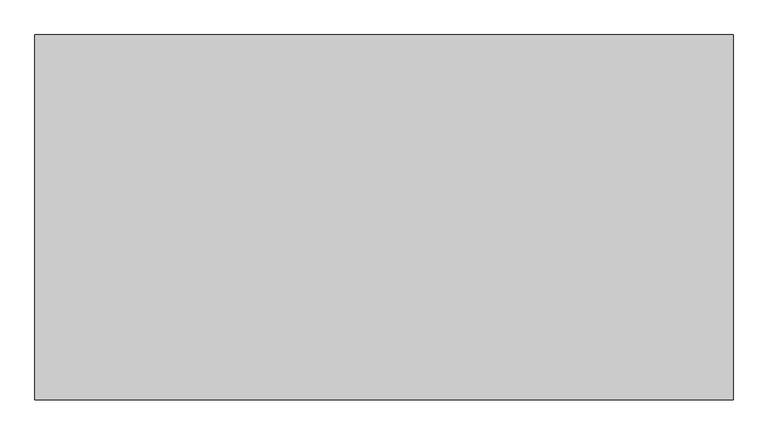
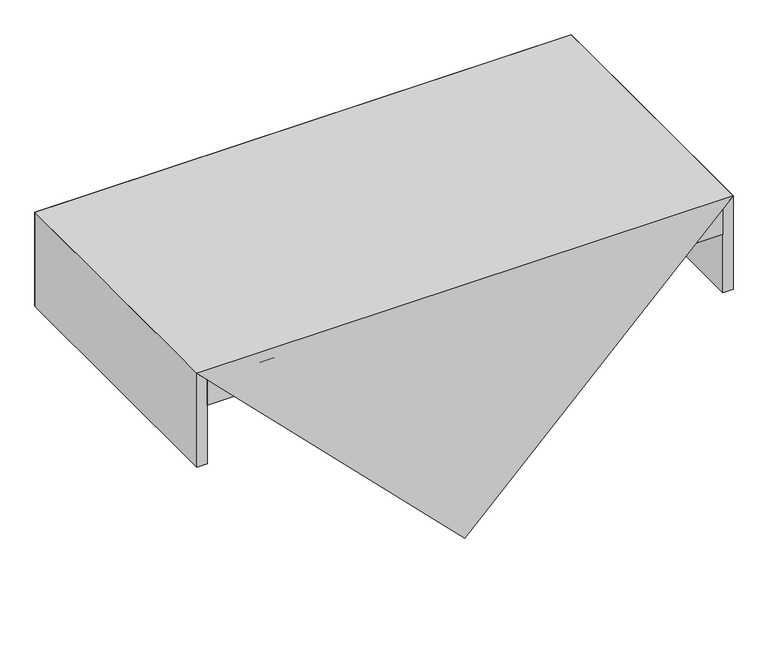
"""IFC4 building model written with IfcOpenShell, lengths in millimetres: proxy geometry, SALUTE^ADMIN 5_34x65 STRAIGHT TRANS-PARTS SOLID."""

import ifcopenshell
import ifcopenshell.guid

model = None  # the IFC model being written
_history = None  # IfcOwnerHistory: only IFC2X3 demands one
_inside = {}  # id of a spatial element -> (the spatial element, [elements in it])
_under = {}  # id of a project, library or spatial element -> (it, [spatial elements below it])
_declared = {}  # id of a project -> (the project, [libraries it declares])
_typed = {}  # id of a type object -> (the type object, [elements of that type])
_made_of = {}  # id of a material, layer set ... -> (it, [elements and type objects made of it])


def new_model(schema):
    """Start an empty IFC model of exactly this schema.

    Asked for "IFC4X3", IfcOpenShell would pick the latest addendum, in which some entities
    have other attributes; the version numbers below select the first issue.
    IFC2X3 requires an IfcOwnerHistory on every rooted entity: one is made here for all.
    """
    global model, _history
    if schema == "IFC4X3":
        model = ifcopenshell.file(schema_version=(4, 3, 0, 0))
    else:
        model = ifcopenshell.file(schema=schema)
    _inside.clear()
    _under.clear()
    _declared.clear()
    _typed.clear()
    _made_of.clear()
    _history = None
    if model.schema == "IFC2X3":
        org = make("IfcOrganization", Name="unknown")
        user = make(
            "IfcPersonAndOrganization",
            ThePerson=make("IfcPerson", FamilyName="unknown"),
            TheOrganization=org,
        )
        app = make(
            "IfcApplication",
            ApplicationDeveloper=org,
            Version="unknown",
            ApplicationFullName="unknown",
            ApplicationIdentifier="unknown",
        )
        _history = make(
            "IfcOwnerHistory",
            OwningUser=user,
            OwningApplication=app,
            ChangeAction="ADDED",
            CreationDate=0,
        )
    return model


def make(cls, **values):
    """One entity of the class cls with the attributes given. An attribute that is None is left unset."""
    return model.create_entity(
        cls, **{name: value for name, value in values.items() if value is not None}
    )


def rooted(cls, **values):
    """An entity with a GlobalId (a new one), such as an element, a storey or a relation."""
    return make(cls, GlobalId=ifcopenshell.guid.new(), OwnerHistory=_history, **values)


def si_unit(unit_type, name, prefix=None):
    """IfcSIUnit, for example si_unit("LENGTHUNIT", "METRE", prefix="MILLI")."""
    return make("IfcSIUnit", UnitType=unit_type, Prefix=prefix, Name=name)


def assignment(units):
    """IfcUnitAssignment: the units of a project."""
    return None if units is None else make("IfcUnitAssignment", Units=units)


def point(xyz):
    """IfcCartesianPoint."""
    return None if xyz is None else make("IfcCartesianPoint", Coordinates=xyz)


def direction(xyz):
    """IfcDirection."""
    return None if xyz is None else make("IfcDirection", DirectionRatios=xyz)


def frame(location, z_axis=None, x_axis=None):
    """IfcAxis2Placement3D, a coordinate frame: its origin and axes. An axis left out is left unset."""
    return make(
        "IfcAxis2Placement3D",
        Location=point(location),
        Axis=direction(z_axis),
        RefDirection=direction(x_axis),
    )


def origin():
    """The frame at (0, 0, 0) with its axes left unset."""
    return frame((0.0, 0.0, 0.0))


def place(relative_to, where):
    """IfcLocalPlacement: puts the frame where relative to a parent placement (None: the world)."""
    return make(
        "IfcLocalPlacement", PlacementRelTo=relative_to, RelativePlacement=where
    )


def context(
    kind, dimensions, precision=None, world=None, true_north=None, identifier=None
):
    """IfcGeometricRepresentationContext, for example the 3D "Model" context."""
    return make(
        "IfcGeometricRepresentationContext",
        ContextIdentifier=identifier,
        ContextType=kind,
        CoordinateSpaceDimension=dimensions,
        Precision=precision,
        WorldCoordinateSystem=world,
        TrueNorth=true_north,
    )


def project(units=None, contexts=None):
    """IfcProject with its units and contexts."""
    return rooted(
        "IfcProject",
        Name="project",
        RepresentationContexts=contexts,
        UnitsInContext=assignment(units),
    )


def spatial(cls, under=None, at=None, **own):
    """A site, building, storey or space (cls), placed at a placement, below another one or the project."""
    s = rooted(cls, ObjectPlacement=at, **own)
    if under is not None:
        _under.setdefault(under.id(), (under, []))[1].append(s)
    return s


def polyline(points):
    """IfcPolyline through the points."""
    return make("IfcPolyline", Points=[point(p) for p in points])


def outline(outer, holes=None, kind="AREA"):
    """IfcArbitraryClosedProfileDef: a profile drawn as a closed curve; with holes, ...WithVoids."""
    if holes is None:
        return make("IfcArbitraryClosedProfileDef", ProfileType=kind, OuterCurve=outer)
    return make(
        "IfcArbitraryProfileDefWithVoids",
        ProfileType=kind,
        OuterCurve=outer,
        InnerCurves=holes,
    )


def extrude(swept, where, along, depth):
    """IfcExtrudedAreaSolid: the profile swept, set in the frame where, extruded along a direction by depth."""
    return make(
        "IfcExtrudedAreaSolid",
        SweptArea=swept,
        Position=where,
        ExtrudedDirection=direction(along),
        Depth=depth,
    )


def faces_of(points, faces, orient=None, outer=None):
    """IfcFace entities. A face is a list of loops; a loop is a list of indices into points, from 0.

    orient and outer hold one flag for each loop. By default every Orientation is true, the
    first loop of a face is its IfcFaceOuterBound and the others are IfcFaceBound.
    """
    made = []
    for i, loops in enumerate(faces):
        bounds = []
        for j, loop in enumerate(loops):
            is_outer = j == 0 if outer is None else outer[i][j]
            bounds.append(
                make(
                    "IfcFaceOuterBound" if is_outer else "IfcFaceBound",
                    Bound=make("IfcPolyLoop", Polygon=[points[k] for k in loop]),
                    Orientation=True if orient is None else orient[i][j],
                )
            )
        made.append(make("IfcFace", Bounds=bounds))
    return made


def faceted_brep(points, faces, orient=None, outer=None, voids=None):
    """IfcFacetedBrep: a solid bounded by flat faces; with voids (closed shells), ...WithVoids."""
    shared = [point(p) for p in points]
    hull = make("IfcClosedShell", CfsFaces=faces_of(shared, faces, orient, outer))
    if voids is None:
        return make("IfcFacetedBrep", Outer=hull)
    return make(
        "IfcFacetedBrepWithVoids",
        Outer=hull,
        Voids=[
            make(cls, CfsFaces=faces_of(shared, fs, o, b)) for cls, fs, o, b in voids
        ],
    )


def shape(context_of_items, identifier, shape_type, items):
    """IfcShapeRepresentation: the items that make up one representation, for example the "Body"."""
    return make(
        "IfcShapeRepresentation",
        ContextOfItems=context_of_items,
        RepresentationIdentifier=identifier,
        RepresentationType=shape_type,
        Items=items,
    )


def source(mapping_origin, context_of_items, identifier, shape_type, items):
    """IfcRepresentationMap: a shape defined once, which mapped items show again and again."""
    return make(
        "IfcRepresentationMap",
        MappingOrigin=mapping_origin,
        MappedRepresentation=shape(context_of_items, identifier, shape_type, items),
    )


def transform(
    local_origin,
    x_axis=None,
    y_axis=None,
    z_axis=None,
    scale=None,
    scale2=None,
    scale3=None,
    uniform=True,
):
    """IfcCartesianTransformationOperator3D, or its non-uniform kind. x_axis, y_axis, z_axis: its Axis1, 2, 3."""
    if uniform:
        return make(
            "IfcCartesianTransformationOperator3D",
            Axis1=direction(x_axis),
            Axis2=direction(y_axis),
            LocalOrigin=point(local_origin),
            Scale=scale,
            Axis3=direction(z_axis),
        )
    return make(
        "IfcCartesianTransformationOperator3DnonUniform",
        Axis1=direction(x_axis),
        Axis2=direction(y_axis),
        LocalOrigin=point(local_origin),
        Scale=scale,
        Axis3=direction(z_axis),
        Scale2=scale2,
        Scale3=scale3,
    )


def mapped(mapping_source, mapping_target):
    """IfcMappedItem: shows the shape of a source again, moved by a transform."""
    return make(
        "IfcMappedItem", MappingSource=mapping_source, MappingTarget=mapping_target
    )


def made_of(thing, what):
    """Note that an element or type object is made of a material, layer set ...; save() writes the relation."""
    if what is not None:
        _made_of.setdefault(what.id(), (what, []))[1].append(thing)
    return thing


def element(
    cls,
    number,
    at=None,
    inside=None,
    cuts=None,
    type_object=None,
    material=None,
    context=None,
    identifier="Body",
    shape_type=None,
    held_by="IfcProductDefinitionShape",
    body=None,
    shapes=None,
    **own,
):
    """One element of the class cls, such as IfcWall. Its Tag is "e" and its number.

    at: its placement. inside: the storey or other place that contains it. cuts: it is an
    opening in that element (IfcRelVoidsElement). A single representation is given by context,
    identifier, shape_type and body (its items); several are given by shapes. held_by: the class
    of the entity that holds the representations. save() writes the other relations.
    """
    e = rooted(cls, Tag="e%d" % number, ObjectPlacement=at, **own)
    if body is not None:
        shapes = [shape(context, identifier, shape_type, body)]
    if shapes is not None:
        e.Representation = make(held_by, Representations=shapes)
    if inside is not None:
        _inside.setdefault(inside.id(), (inside, []))[1].append(e)
    if cuts is not None:
        rooted(
            "IfcRelVoidsElement", RelatingBuildingElement=cuts, RelatedOpeningElement=e
        )
    if type_object is not None:
        _typed.setdefault(type_object.id(), (type_object, []))[1].append(e)
    return made_of(e, material)


def aggregate(whole, parts):
    """IfcRelAggregates: a whole, such as a stair, and the parts it consists of."""
    return rooted("IfcRelAggregates", RelatingObject=whole, RelatedObjects=parts)


def save(model, path):
    """Write the relations noted so far, then the file.

    IfcRelAggregates (storeys below a building ...), IfcRelContainedInSpatialStructure (elements
    in a storey), IfcRelDefinesByType, IfcRelAssociatesMaterial and IfcRelDeclares: one each for
    every whole, place, type object, material and project.
    """
    for whole, parts in _under.values():
        aggregate(whole, parts)
    for where, things in _inside.values():
        rooted(
            "IfcRelContainedInSpatialStructure",
            RelatedElements=things,
            RelatingStructure=where,
        )
    for kind, things in _typed.values():
        rooted("IfcRelDefinesByType", RelatedObjects=things, RelatingType=kind)
    for what, things in _made_of.values():
        rooted("IfcRelAssociatesMaterial", RelatedObjects=things, RelatingMaterial=what)
    for by, libraries in _declared.values():
        rooted("IfcRelDeclares", RelatingContext=by, RelatedDefinitions=libraries)
    model.write(path)


def generic_models_3ec2727e(model_context):
    return source(origin(), model_context, "Body", "SolidModel", [
        extrude(outline(polyline([(-1.5875, -328.6125), (-1585.9125, -328.6125), (-1585.9125, -33.3375), (-1.5875, -33.3375), (-1.5875, -328.6125)])), frame((0.0, 0.0, -133.35), z_axis=(0.0, 0.0, 1.0), x_axis=(1.0, 0.0, 0.0)), (0.0, 0.0, 1.0), 19.05),
        faceted_brep([(-793.75, -863.6, -825.5), (31.75, -863.6, 0.0), (-1619.25, -863.6, 0.0), (-793.75, -825.5, -825.5), (31.75, 0.0, 0.0), (-1619.25, 0.0, 0.0)], [[[0, 1, 2]], [[1, 0, 3, 4]], [[5, 2, 1, 4]], [[4, 3, 5]], [[0, 2, 5, 3]]]),
        faceted_brep([(-1619.25, -863.6, -304.8), (-1587.5, -863.6, -304.8), (-1587.5, -863.6, -31.75), (-1619.25, -863.6, 0.0), (-1619.25, 0.0, 0.0), (-1587.5, -31.75, -31.75), (-1587.5, -31.75, -304.8), (-1619.25, 0.0, -304.8)], [[[0, 1, 2, 3]], [[4, 3, 2, 5]], [[5, 6, 7, 4]], [[1, 6, 5, 2]], [[7, 6, 1, 0]], [[0, 3, 4, 7]]]),
        faceted_brep([(31.75, 0.0, -304.8), (0.0, -31.75, -304.8), (-1587.5, -31.75, -304.8), (-1619.25, 0.0, -304.8), (0.0, -31.75, -31.75), (-1587.5, -31.75, -31.75), (31.75, 0.0, 0.0), (-1619.25, 0.0, 0.0)], [[[0, 1, 2, 3]], [[1, 4, 5, 2]], [[4, 6, 7, 5]], [[6, 0, 3, 7]], [[2, 5, 7, 3]], [[4, 1, 0, 6]]]),
        extrude(outline(polyline([(0.0, -844.55), (0.0, -863.6), (-1587.5, -863.6), (-1587.5, -844.55), (0.0, -844.55)])), frame((0.0, 0.0, -114.3), z_axis=(0.0, 0.0, 1.0), x_axis=(1.0, 0.0, 0.0)), (0.0, 0.0, 1.0), 82.55),
        faceted_brep([(0.0, -863.6, -304.8), (31.75, -863.6, -304.8), (31.75, -863.6, 0.0), (0.0, -863.6, -31.75), (31.75, 0.0, -304.8), (31.75, 0.0, 0.0), (0.0, -31.75, -304.8), (0.0, -31.75, -31.75)], [[[0, 1, 2, 3]], [[2, 1, 4, 5]], [[5, 4, 6, 7]], [[7, 3, 2, 5]], [[3, 7, 6, 0]], [[6, 4, 1, 0]]]),
    ])


if __name__ == "__main__":
    model = new_model("IFC4")
    model_context = context("Model", 3, world=origin())
    ifc_project = project(units=[si_unit("LENGTHUNIT", "METRE", prefix="MILLI")], contexts=[model_context])
    site = spatial("IfcSite", under=ifc_project)
    building = spatial("IfcBuilding", under=site)
    placement = place(None, origin())
    generic_models_shape = generic_models_3ec2727e(model_context)
    element("IfcBuildingElementProxy", 1, Name="SALUTE^ADMIN 5_34x65 STRAIGHT TRANS-PARTS SOLID", ObjectType="SALUTE^ADMIN 5_34x65 STRAIGHT TRANS-PARTS SOLID", at=placement, inside=building, context=model_context, shape_type="MappedRepresentation", body=[
        mapped(generic_models_shape, transform((0.0, 0.0, 0.0), x_axis=(1.0, 0.0, 0.0), y_axis=(0.0, 1.0, 0.0), z_axis=(0.0, 0.0, 1.0))),
    ])
    save(model, "model.ifc")
